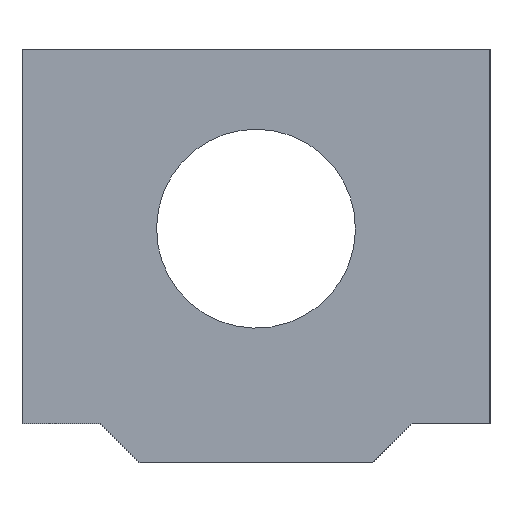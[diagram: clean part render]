
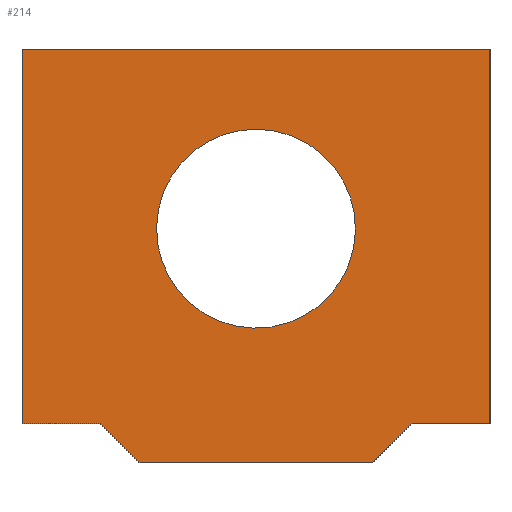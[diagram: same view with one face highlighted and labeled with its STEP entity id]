
A CAD part, left-side view. The second image highlights one B-rep face of the part: STEP entity #214.
In plain terms, the highlighted planar face has unit normal (-1, 0, 0).
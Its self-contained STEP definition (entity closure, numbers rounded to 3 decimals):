
#81=CARTESIAN_POINT('Line Origine',(-100.,30.,-1.)) ;
#85=CARTESIAN_POINT('Vertex',(-100.,30.,-25.)) ;
#87=CARTESIAN_POINT('Vertex',(-100.,30.,23.)) ;
#134=CARTESIAN_POINT('Axis2P3D Location',(-100.,0.,0.)) ;
#139=CARTESIAN_POINT('Line Origine',(-100.,0.,23.)) ;
#143=CARTESIAN_POINT('Vertex',(-100.,-30.,23.)) ;
#146=CARTESIAN_POINT('Line Origine',(-100.,25.,-25.)) ;
#150=CARTESIAN_POINT('Vertex',(-100.,20.,-25.)) ;
#153=CARTESIAN_POINT('Line Origine',(-100.,17.5,-27.5)) ;
#157=CARTESIAN_POINT('Vertex',(-100.,15.,-30.)) ;
#160=CARTESIAN_POINT('Line Origine',(-100.,0.,-30.)) ;
#164=CARTESIAN_POINT('Vertex',(-100.,-15.,-30.)) ;
#167=CARTESIAN_POINT('Line Origine',(-100.,-17.5,-27.5)) ;
#171=CARTESIAN_POINT('Vertex',(-100.,-20.,-25.)) ;
#174=CARTESIAN_POINT('Line Origine',(-100.,-25.,-25.)) ;
#178=CARTESIAN_POINT('Vertex',(-100.,-30.,-25.)) ;
#181=CARTESIAN_POINT('Line Origine',(-100.,-30.,-1.)) ;
#196=CARTESIAN_POINT('Axis2P3D Location',(-100.,0.,0.)) ;
#200=CARTESIAN_POINT('Vertex',(-100.,11.189,-6.113)) ;
#202=CARTESIAN_POINT('Vertex',(-100.,-11.189,6.113)) ;
#205=CARTESIAN_POINT('Axis2P3D Location',(-100.,0.,0.)) ;
#82=DIRECTION('Vector Direction',(0.,0.,-1.)) ;
#135=DIRECTION('Axis2P3D Direction',(1.,0.,0.)) ;
#136=DIRECTION('Axis2P3D XDirection',(0.,1.,0.)) ;
#140=DIRECTION('Vector Direction',(0.,1.,0.)) ;
#147=DIRECTION('Vector Direction',(0.,-1.,0.)) ;
#154=DIRECTION('Vector Direction',(0.,-0.707,-0.707)) ;
#161=DIRECTION('Vector Direction',(0.,-1.,0.)) ;
#168=DIRECTION('Vector Direction',(0.,-0.707,0.707)) ;
#175=DIRECTION('Vector Direction',(0.,-1.,0.)) ;
#182=DIRECTION('Vector Direction',(0.,0.,1.)) ;
#197=DIRECTION('Axis2P3D Direction',(1.,0.,0.)) ;
#206=DIRECTION('Axis2P3D Direction',(1.,0.,0.)) ;
#137=AXIS2_PLACEMENT_3D('Plane Axis2P3D',#134,#135,#136) ;
#198=AXIS2_PLACEMENT_3D('Circle Axis2P3D',#196,#197,$) ;
#207=AXIS2_PLACEMENT_3D('Circle Axis2P3D',#205,#206,$) ;
#187=ORIENTED_EDGE('',*,*,#145,.F.) ;
#188=ORIENTED_EDGE('',*,*,#89,.F.) ;
#189=ORIENTED_EDGE('',*,*,#152,.F.) ;
#190=ORIENTED_EDGE('',*,*,#159,.F.) ;
#191=ORIENTED_EDGE('',*,*,#166,.F.) ;
#192=ORIENTED_EDGE('',*,*,#173,.F.) ;
#193=ORIENTED_EDGE('',*,*,#180,.F.) ;
#194=ORIENTED_EDGE('',*,*,#185,.F.) ;
#211=ORIENTED_EDGE('',*,*,#204,.T.) ;
#212=ORIENTED_EDGE('',*,*,#209,.T.) ;
#213=FACE_BOUND('',#210,.T.) ;
#83=VECTOR('Line Direction',#82,1.) ;
#141=VECTOR('Line Direction',#140,1.) ;
#148=VECTOR('Line Direction',#147,1.) ;
#155=VECTOR('Line Direction',#154,1.) ;
#162=VECTOR('Line Direction',#161,1.) ;
#169=VECTOR('Line Direction',#168,1.) ;
#176=VECTOR('Line Direction',#175,1.) ;
#183=VECTOR('Line Direction',#182,1.) ;
#214=ADVANCED_FACE('PartBody',(#195,#213),#138,.F.) ;
#199=CIRCLE('generated circle',#198,12.75) ;
#208=CIRCLE('generated circle',#207,12.75) ;
#89=EDGE_CURVE('',#86,#88,#84,.F.) ;
#145=EDGE_CURVE('',#88,#144,#142,.F.) ;
#152=EDGE_CURVE('',#151,#86,#149,.F.) ;
#159=EDGE_CURVE('',#158,#151,#156,.F.) ;
#166=EDGE_CURVE('',#165,#158,#163,.F.) ;
#173=EDGE_CURVE('',#172,#165,#170,.F.) ;
#180=EDGE_CURVE('',#179,#172,#177,.F.) ;
#185=EDGE_CURVE('',#144,#179,#184,.F.) ;
#204=EDGE_CURVE('',#201,#203,#199,.T.) ;
#209=EDGE_CURVE('',#203,#201,#208,.T.) ;
#186=EDGE_LOOP('',(#187,#188,#189,#190,#191,#192,#193,#194)) ;
#210=EDGE_LOOP('',(#211,#212)) ;
#195=FACE_OUTER_BOUND('',#186,.T.) ;
#84=LINE('Line',#81,#83) ;
#142=LINE('Line',#139,#141) ;
#149=LINE('Line',#146,#148) ;
#156=LINE('Line',#153,#155) ;
#163=LINE('Line',#160,#162) ;
#170=LINE('Line',#167,#169) ;
#177=LINE('Line',#174,#176) ;
#184=LINE('Line',#181,#183) ;
#138=PLANE('',#137) ;
#86=VERTEX_POINT('',#85) ;
#88=VERTEX_POINT('',#87) ;
#144=VERTEX_POINT('',#143) ;
#151=VERTEX_POINT('',#150) ;
#158=VERTEX_POINT('',#157) ;
#165=VERTEX_POINT('',#164) ;
#172=VERTEX_POINT('',#171) ;
#179=VERTEX_POINT('',#178) ;
#201=VERTEX_POINT('',#200) ;
#203=VERTEX_POINT('',#202) ;
